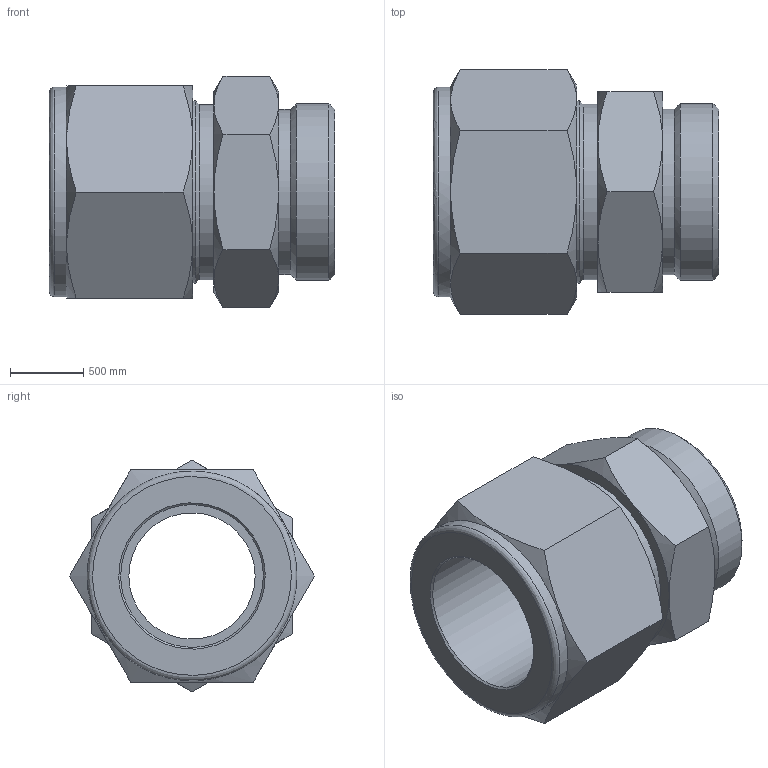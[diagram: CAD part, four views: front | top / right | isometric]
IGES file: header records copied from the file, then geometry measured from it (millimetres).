
Global section: file name: SSMC-24-24U; native system: Autodesk Inventor 2016; preprocessor: unknown; author: DESIGNPC2; date: 20160123.165453; units: millimetre
Bounding box: 1951.95 x 1676.17 x 1583.79 mm (x, y, z)
Volume: 1716751166.8 mm3; surface area: 17765609.5 mm2
Topology: 1 solids, 1 shells, 50 faces, 123 edges, 79 vertices
Faces by surface type: bspline 50
